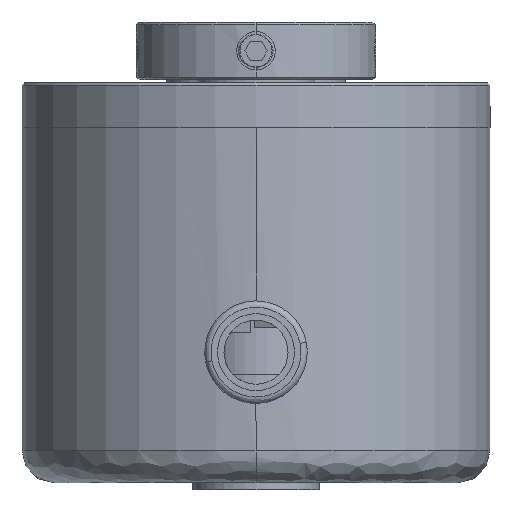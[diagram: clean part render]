
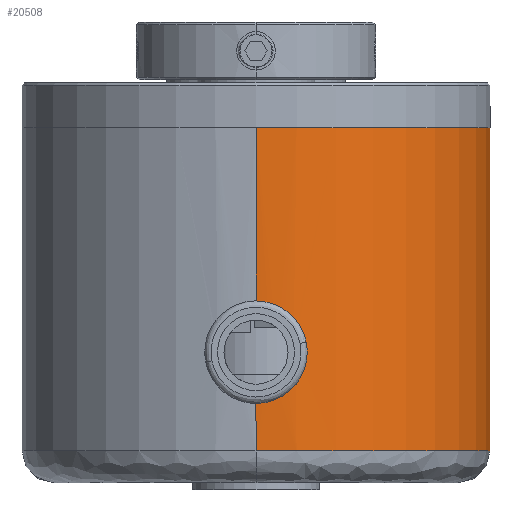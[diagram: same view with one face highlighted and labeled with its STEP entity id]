
A CAD part, front view. The second image highlights one B-rep face of the part: STEP entity #20508.
In plain terms, the highlighted cylindrical face has radius 18.25 mm (diameter 36.5 mm), a partial arc.
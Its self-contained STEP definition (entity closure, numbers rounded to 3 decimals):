
#978 = CARTESIAN_POINT ( 'NONE',  ( 0., -18.25, -3.5 ) ) ;
#1302 = DIRECTION ( 'NONE',  ( 0., 0., 1. ) ) ;
#1498 = CARTESIAN_POINT ( 'NONE',  ( 0.4, -18.247, -17.97 ) ) ;
#1591 = CARTESIAN_POINT ( 'NONE',  ( 3.03, -17.997, -20.6 ) ) ;
#1689 = CARTESIAN_POINT ( 'NONE',  ( 1.354, -18.201, -23.74 ) ) ;
#1940 = LINE ( 'NONE', #978, #18171 ) ;
#2035 = DIRECTION ( 'NONE',  ( 0., 0., 1. ) ) ;
#2059 = ORIENTED_EDGE ( 'NONE', *, *, #25085, .T. ) ;
#3487 = CIRCLE ( 'NONE', #22788, 18.25 ) ;
#3530 = CARTESIAN_POINT ( 'NONE',  ( 0., 18.25, -3.5 ) ) ;
#3615 = EDGE_CURVE ( 'NONE', #21690, #19518, #3487, .T. ) ;
#3646 = CARTESIAN_POINT ( 'NONE',  ( 0.984, -18.224, -18.106 ) ) ;
#3735 = CARTESIAN_POINT ( 'NONE',  ( 3.05, -17.993, -21.197 ) ) ;
#3825 = CARTESIAN_POINT ( 'NONE',  ( 0.795, -18.234, -23.951 ) ) ;
#3883 = EDGE_CURVE ( 'NONE', #11999, #14829, #26435, .T. ) ;
#4629 = CARTESIAN_POINT ( 'NONE',  ( 0., -18.25, -28.7 ) ) ;
#4863 = DIRECTION ( 'NONE',  ( 0., 0., 1. ) ) ;
#5779 = CARTESIAN_POINT ( 'NONE',  ( 1.529, -18.187, -18.353 ) ) ;
#5871 = CARTESIAN_POINT ( 'NONE',  ( 2.952, -18.01, -21.791 ) ) ;
#5961 = CARTESIAN_POINT ( 'NONE',  ( 0.202, -18.25, -24.05 ) ) ;
#6018 = VECTOR ( 'NONE', #2035, 1000. ) ;
#6091 = DIRECTION ( 'NONE',  ( 0., 0., -1. ) ) ;
#6133 = VERTEX_POINT ( 'NONE', #20788 ) ;
#6731 = FACE_OUTER_BOUND ( 'NONE', #8476, .T. ) ;
#7241 = CARTESIAN_POINT ( 'NONE',  ( 0., 0., -3.5 ) ) ;
#7882 = CARTESIAN_POINT ( 'NONE',  ( 2.016, -18.139, -18.703 ) ) ;
#7974 = CARTESIAN_POINT ( 'NONE',  ( 2.742, -18.043, -22.351 ) ) ;
#8219 = ORIENTED_EDGE ( 'NONE', *, *, #15623, .T. ) ;
#8476 = EDGE_LOOP ( 'NONE', ( #18124, #8219, #21324, #24687, #2059, #19841 ) ) ;
#9973 = VECTOR ( 'NONE', #1302, 1000. ) ;
#10023 = CARTESIAN_POINT ( 'NONE',  ( 2.423, -18.089, -19.137 ) ) ;
#10108 = CARTESIAN_POINT ( 'NONE',  ( 2.426, -18.088, -22.859 ) ) ;
#11641 = AXIS2_PLACEMENT_3D ( 'NONE', #7241, #19759, #21902 ) ;
#11999 = VERTEX_POINT ( 'NONE', #4629 ) ;
#12041 = CARTESIAN_POINT ( 'NONE',  ( 0., -18.25, -17.95 ) ) ;
#12129 = CARTESIAN_POINT ( 'NONE',  ( 2.741, -18.043, -19.647 ) ) ;
#12231 = CARTESIAN_POINT ( 'NONE',  ( 2.016, -18.139, -23.297 ) ) ;
#13352 = CYLINDRICAL_SURFACE ( 'NONE', #11641, 18.25 ) ;
#13566 = CARTESIAN_POINT ( 'NONE',  ( 0., 18.25, -3.5 ) ) ;
#14004 = CARTESIAN_POINT ( 'NONE',  ( 0., 18.25, -28.7 ) ) ;
#14258 = CARTESIAN_POINT ( 'NONE',  ( 2.952, -18.01, -20.206 ) ) ;
#14349 = CARTESIAN_POINT ( 'NONE',  ( 1.533, -18.186, -23.644 ) ) ;
#14438 = VERTEX_POINT ( 'NONE', #17052 ) ;
#14829 = VERTEX_POINT ( 'NONE', #14004 ) ;
#15623 = EDGE_CURVE ( 'NONE', #14829, #21690, #25996, .T. ) ;
#16067 = EDGE_CURVE ( 'NONE', #11999, #14438, #1940, .T. ) ;
#16293 = CARTESIAN_POINT ( 'NONE',  ( 0.79, -18.234, -18.048 ) ) ;
#16389 = CARTESIAN_POINT ( 'NONE',  ( 3.05, -17.993, -20.798 ) ) ;
#16478 = CARTESIAN_POINT ( 'NONE',  ( 0.985, -18.224, -23.893 ) ) ;
#16576 = LINE ( 'NONE', #27176, #6018 ) ;
#17052 = CARTESIAN_POINT ( 'NONE',  ( 0., -18.25, -24.05 ) ) ;
#17516 = CARTESIAN_POINT ( 'NONE',  ( 0., 0., -28.7 ) ) ;
#18124 = ORIENTED_EDGE ( 'NONE', *, *, #3883, .T. ) ;
#18171 = VECTOR ( 'NONE', #26345, 1000. ) ;
#18414 = CARTESIAN_POINT ( 'NONE',  ( 1.354, -18.201, -18.259 ) ) ;
#18500 = CARTESIAN_POINT ( 'NONE',  ( 3.03, -17.997, -21.399 ) ) ;
#18585 = CARTESIAN_POINT ( 'NONE',  ( 0.404, -18.247, -24.03 ) ) ;
#18604 = B_SPLINE_CURVE_WITH_KNOTS ( 'NONE', 3,
 ( #12041, #24576, #1498, #16293, #3646, #18414, #5779, #20448, #7882, #22554, #10023, #24660, #12129, #26742, #14258, #1591, #16389, #3735, #18500, #5871, #20539, #7974, #22651, #10108, #24751, #12231, #26828, #14349, #1689, #16478, #3825, #18585, #5961, #20620 ),
 .UNSPECIFIED., .F., .F.,
 ( 4, 2, 2, 2, 2, 2, 2, 2, 2, 2, 2, 2, 2, 2, 2, 2, 4 ),
 ( 0.01, 0.01, 0.011, 0.011, 0.012, 0.013, 0.013, 0.014, 0.014, 0.015, 0.016, 0.016, 0.017, 0.017, 0.018, 0.019, 0.019 ),
 .UNSPECIFIED. ) ;
#18704 = CARTESIAN_POINT ( 'NONE',  ( 0., 0., -3.5 ) ) ;
#18971 = EDGE_CURVE ( 'NONE', #6133, #19518, #16576, .T. ) ;
#19518 = VERTEX_POINT ( 'NONE', #20848 ) ;
#19579 = DIRECTION ( 'NONE',  ( 0., -1., 0. ) ) ;
#19759 = DIRECTION ( 'NONE',  ( 0., 0., 1. ) ) ;
#19841 = ORIENTED_EDGE ( 'NONE', *, *, #16067, .F. ) ;
#20448 = CARTESIAN_POINT ( 'NONE',  ( 1.86, -18.156, -18.574 ) ) ;
#20508 = ADVANCED_FACE ( 'NONE', ( #6731 ), #13352, .T. ) ;
#20539 = CARTESIAN_POINT ( 'NONE',  ( 2.895, -18.019, -21.981 ) ) ;
#20620 = CARTESIAN_POINT ( 'NONE',  ( 0., -18.25, -24.05 ) ) ;
#20758 = DIRECTION ( 'NONE',  ( 0., -1., 0. ) ) ;
#20788 = CARTESIAN_POINT ( 'NONE',  ( 0., -18.25, -17.95 ) ) ;
#20848 = CARTESIAN_POINT ( 'NONE',  ( 0., -18.25, -3.5 ) ) ;
#21324 = ORIENTED_EDGE ( 'NONE', *, *, #3615, .T. ) ;
#21690 = VERTEX_POINT ( 'NONE', #13566 ) ;
#21902 = DIRECTION ( 'NONE',  ( 0., -1., 0. ) ) ;
#22554 = CARTESIAN_POINT ( 'NONE',  ( 2.297, -18.105, -18.984 ) ) ;
#22651 = CARTESIAN_POINT ( 'NONE',  ( 2.647, -18.057, -22.529 ) ) ;
#22788 = AXIS2_PLACEMENT_3D ( 'NONE', #18704, #6091, #20758 ) ;
#23647 = AXIS2_PLACEMENT_3D ( 'NONE', #17516, #4863, #19579 ) ;
#24576 = CARTESIAN_POINT ( 'NONE',  ( 0.202, -18.25, -17.95 ) ) ;
#24660 = CARTESIAN_POINT ( 'NONE',  ( 2.646, -18.057, -19.47 ) ) ;
#24687 = ORIENTED_EDGE ( 'NONE', *, *, #18971, .F. ) ;
#24751 = CARTESIAN_POINT ( 'NONE',  ( 2.3, -18.105, -23.013 ) ) ;
#25085 = EDGE_CURVE ( 'NONE', #6133, #14438, #18604, .T. ) ;
#25996 = LINE ( 'NONE', #3530, #9973 ) ;
#26345 = DIRECTION ( 'NONE',  ( 0., 0., 1. ) ) ;
#26435 = CIRCLE ( 'NONE', #23647, 18.25 ) ;
#26742 = CARTESIAN_POINT ( 'NONE',  ( 2.893, -18.019, -20.014 ) ) ;
#26828 = CARTESIAN_POINT ( 'NONE',  ( 1.862, -18.155, -23.423 ) ) ;
#27176 = CARTESIAN_POINT ( 'NONE',  ( 0., -18.25, -3.5 ) ) ;
